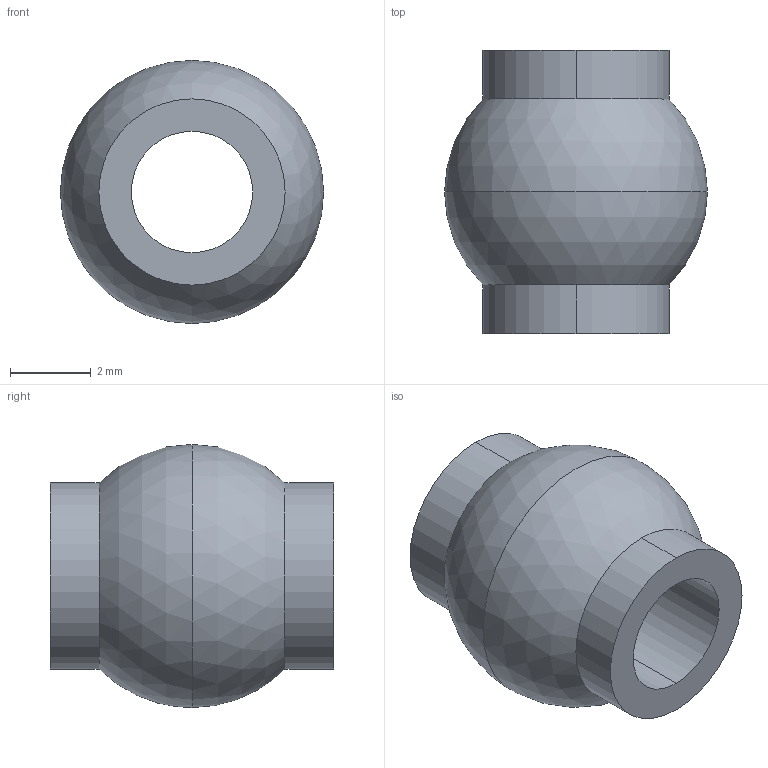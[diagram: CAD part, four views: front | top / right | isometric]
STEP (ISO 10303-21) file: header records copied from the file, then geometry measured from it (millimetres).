
FILE_DESCRIPTION (( 'STEP AP214' ), '1' );
FILE_NAME ('ﾘ瑩 6,5.STEP', '2019-03-21T14:19:39', ( '' ), ( '' ), 'SwSTEP 2.0', 'SolidWorks 2018', '' );
FILE_SCHEMA (( 'AUTOMOTIVE_DESIGN' ));
Length unit declared in the file: millimetre
Products named in the file (1): ﾘ瑩 6,5
Bounding box: 6.5 x 7 x 6.5 mm (x, y, z)
Volume: 117.6 mm3; surface area: 213.6 mm2
Topology: 1 solids, 1 shells, 10 faces, 23 edges, 15 vertices
Faces by surface type: cylinder 6, sphere 2, plane 2
Entity records: 312 total; most frequent: DIRECTION 56, CARTESIAN_POINT 45, ORIENTED_EDGE 40, AXIS2_PLACEMENT_3D 25, EDGE_CURVE 20, CIRCLE 14, EDGE_LOOP 14, VERTEX_POINT 14
